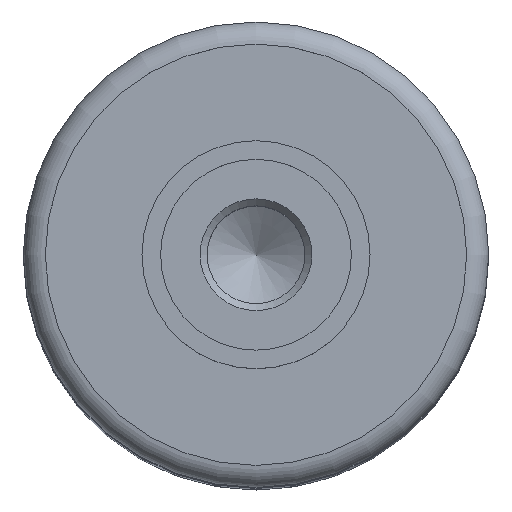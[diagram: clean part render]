
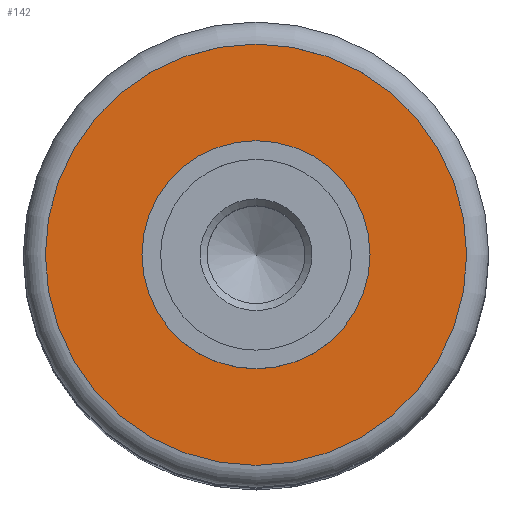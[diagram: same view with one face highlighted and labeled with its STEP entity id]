
A CAD part, top view. The second image highlights one B-rep face of the part: STEP entity #142.
In plain terms, the highlighted planar face has unit normal (0, 0, 1).
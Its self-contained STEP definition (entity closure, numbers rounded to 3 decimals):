
#142=ADVANCED_FACE('',(#261,#262),#263,.T.);
#261=FACE_BOUND('',#374,.T.);
#262=FACE_OUTER_BOUND('',#375,.T.);
#263=PLANE('',#376);
#374=EDGE_LOOP('',(#517));
#375=EDGE_LOOP('',(#518));
#376=AXIS2_PLACEMENT_3D('',#519,#520,#521);
#517=ORIENTED_EDGE('',*,*,#603,.F.);
#518=ORIENTED_EDGE('',*,*,#605,.T.);
#519=CARTESIAN_POINT('',(0.0,0.0,30.2));
#520=DIRECTION('',(0.0,0.0,1.0));
#521=DIRECTION('',(1.0,0.0,0.0));
#603=EDGE_CURVE('',#677,#677,#678,.T.);
#605=EDGE_CURVE('',#680,#680,#681,.T.);
#677=VERTEX_POINT('',#894);
#678=CIRCLE('',#895,4.9);
#680=VERTEX_POINT('',#897);
#681=CIRCLE('',#898,9.05);
#894=CARTESIAN_POINT('',(4.9,0.0,30.2));
#895=AXIS2_PLACEMENT_3D('',#971,#972,#973);
#897=CARTESIAN_POINT('',(9.05,0.0,30.2));
#898=AXIS2_PLACEMENT_3D('',#974,#975,#976);
#971=CARTESIAN_POINT('',(0.0,0.0,30.2));
#972=DIRECTION('',(0.0,0.0,1.0));
#973=DIRECTION('',(1.0,0.0,0.0));
#974=CARTESIAN_POINT('',(0.0,0.0,30.2));
#975=DIRECTION('',(0.0,0.0,1.0));
#976=DIRECTION('',(1.0,0.0,0.0));
